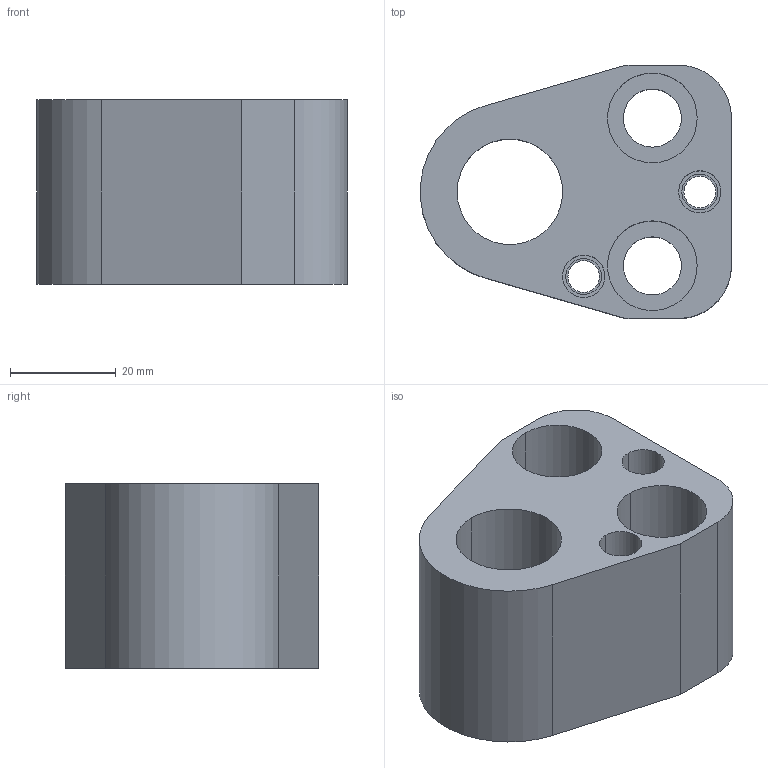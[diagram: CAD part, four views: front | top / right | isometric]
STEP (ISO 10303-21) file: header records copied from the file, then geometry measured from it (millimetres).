
FILE_DESCRIPTION(/* description */ (''),/* implementation_level */ '2;1');
FILE_NAME(/* name */ '3d_hap-an20_04002_r00.stp',/* time_stamp */ '2011-01-10T14:14:59+09:00',/* author */ ('MISUMI'),/* organization */ (''),/* preprocessor_version */ 'ST-DEVELOPER v11',/* originating_system */ 'UGS - NX 5.0',/* authorisation */ '');
FILE_SCHEMA (('CONFIG_CONTROL_DESIGN'));
Length unit declared in the file: millimetre
Products named in the file (1): 3d_hap-an20_04002_r00
Bounding box: 58.94 x 48 x 35 mm (x, y, z)
Volume: 52913 mm3; surface area: 16735.3 mm2
Topology: 1 solids, 1 shells, 43 faces, 100 edges, 66 vertices
Faces by surface type: cylinder 27, plane 14, cone 2
Entity records: 1360 total; most frequent: DIRECTION 244, CARTESIAN_POINT 210, ORIENTED_EDGE 200, EDGE_CURVE 100, AXIS2_PLACEMENT_3D 100, VERTEX_POINT 66, EDGE_LOOP 60, CIRCLE 56
